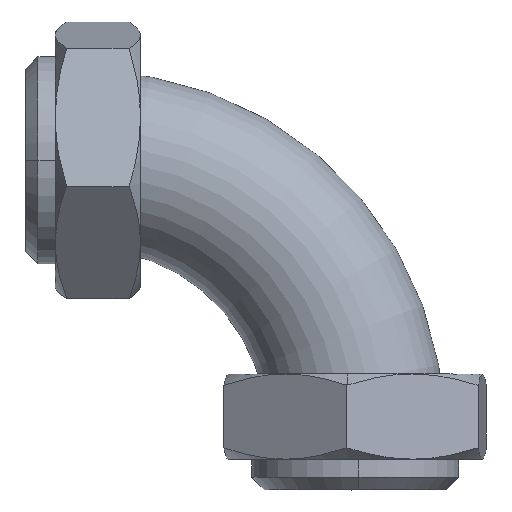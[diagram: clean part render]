
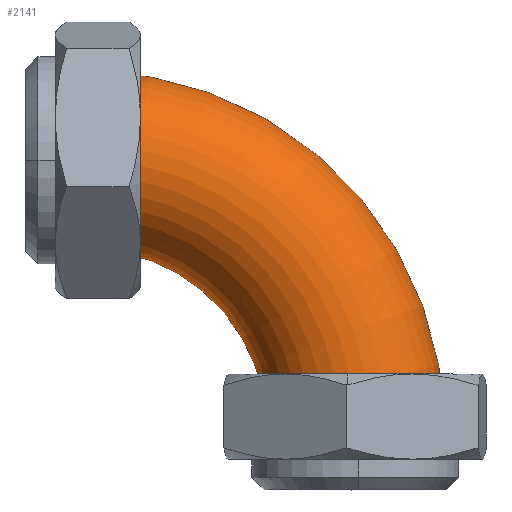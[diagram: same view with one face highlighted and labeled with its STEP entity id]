
A CAD part, top view. The second image highlights one B-rep face of the part: STEP entity #2141.
In plain terms, the highlighted toroidal (fillet/blend) face has major radius 95.25 mm and minor radius 31.75 mm.
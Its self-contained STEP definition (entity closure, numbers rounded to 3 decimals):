
#78 = DIRECTION ( 'NONE',  ( 0., 1., 0. ) ) ;
#89 = CARTESIAN_POINT ( 'NONE',  ( 0., 63.5, 0. ) ) ;
#108 = DIRECTION ( 'NONE',  ( 0., 0., -1. ) ) ;
#253 = CARTESIAN_POINT ( 'NONE',  ( 127., 0., 0. ) ) ;
#268 = CARTESIAN_POINT ( 'NONE',  ( 0., 0., 0. ) ) ;
#272 = TOROIDAL_SURFACE ( 'NONE', #2583, 95.25, 31.75 ) ;
#396 = DIRECTION ( 'NONE',  ( -1., 0., 0. ) ) ;
#523 = CARTESIAN_POINT ( 'NONE',  ( 0., 127., 0. ) ) ;
#640 = EDGE_CURVE ( 'NONE', #764, #2929, #1373, .T. ) ;
#641 = CIRCLE ( 'NONE', #1274, 127. ) ;
#688 = ORIENTED_EDGE ( 'NONE', *, *, #1426, .T. ) ;
#764 = VERTEX_POINT ( 'NONE', #1857 ) ;
#790 = EDGE_CURVE ( 'NONE', #2271, #2929, #641, .T. ) ;
#899 = ORIENTED_EDGE ( 'NONE', *, *, #790, .F. ) ;
#920 = DIRECTION ( 'NONE',  ( -1., 0., 0. ) ) ;
#1016 = CARTESIAN_POINT ( 'NONE',  ( 0., 0., 0. ) ) ;
#1030 = DIRECTION ( 'NONE',  ( -1., 0., 0. ) ) ;
#1168 = CARTESIAN_POINT ( 'NONE',  ( 95.25, 0., 0. ) ) ;
#1274 = AXIS2_PLACEMENT_3D ( 'NONE', #1016, #108, #1030 ) ;
#1290 = EDGE_LOOP ( 'NONE', ( #899, #2609, #688, #1577 ) ) ;
#1332 = CIRCLE ( 'NONE', #2337, 31.75 ) ;
#1373 = CIRCLE ( 'NONE', #1516, 31.75 ) ;
#1404 = CARTESIAN_POINT ( 'NONE',  ( 0., 0., 0. ) ) ;
#1426 = EDGE_CURVE ( 'NONE', #2483, #764, #2424, .T. ) ;
#1516 = AXIS2_PLACEMENT_3D ( 'NONE', #1168, #78, #1609 ) ;
#1559 = CARTESIAN_POINT ( 'NONE',  ( 0., 95.25, 0. ) ) ;
#1577 = ORIENTED_EDGE ( 'NONE', *, *, #640, .T. ) ;
#1609 = DIRECTION ( 'NONE',  ( 0., 0., 1. ) ) ;
#1856 = DIRECTION ( 'NONE',  ( -1., 0., 0. ) ) ;
#1857 = CARTESIAN_POINT ( 'NONE',  ( 63.5, 0., 0. ) ) ;
#2105 = DIRECTION ( 'NONE',  ( 0., 0., -1. ) ) ;
#2141 = ADVANCED_FACE ( 'NONE', ( #2260 ), #272, .T. ) ;
#2260 = FACE_OUTER_BOUND ( 'NONE', #1290, .T. ) ;
#2271 = VERTEX_POINT ( 'NONE', #523 ) ;
#2312 = DIRECTION ( 'NONE',  ( 0., 0., -1. ) ) ;
#2337 = AXIS2_PLACEMENT_3D ( 'NONE', #1559, #396, #2477 ) ;
#2395 = EDGE_CURVE ( 'NONE', #2483, #2271, #1332, .T. ) ;
#2424 = CIRCLE ( 'NONE', #2769, 63.5 ) ;
#2477 = DIRECTION ( 'NONE',  ( 0., 0., 1. ) ) ;
#2483 = VERTEX_POINT ( 'NONE', #89 ) ;
#2583 = AXIS2_PLACEMENT_3D ( 'NONE', #268, #2105, #920 ) ;
#2609 = ORIENTED_EDGE ( 'NONE', *, *, #2395, .F. ) ;
#2769 = AXIS2_PLACEMENT_3D ( 'NONE', #1404, #2312, #1856 ) ;
#2929 = VERTEX_POINT ( 'NONE', #253 ) ;
